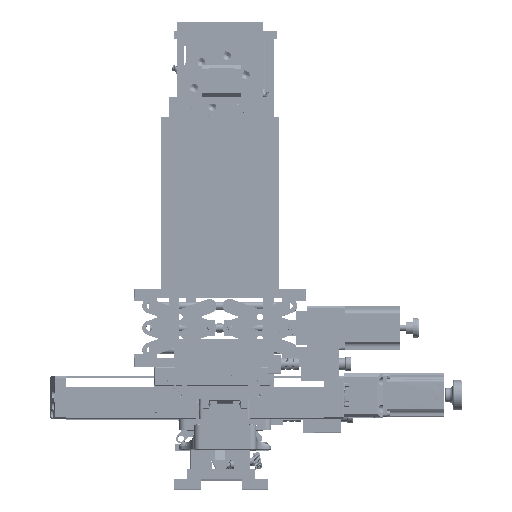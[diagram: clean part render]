
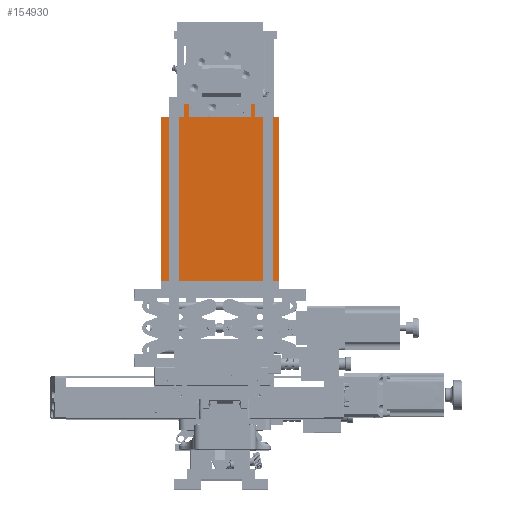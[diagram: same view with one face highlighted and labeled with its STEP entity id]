
A CAD part, top view. The second image highlights one B-rep face of the part: STEP entity #154930.
In plain terms, the highlighted planar face has unit normal (0, 0, 1) as drawn and (0, 0, -1) by its records, which use the part's own axes.
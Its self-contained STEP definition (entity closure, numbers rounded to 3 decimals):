
#6925 = VERTEX_POINT ( 'NONE', #85030 ) ;
#8057 = PLANE ( 'NONE',  #137661 ) ;
#9685 = EDGE_CURVE ( 'NONE', #239781, #52835, #263859, .T. ) ;
#12762 = VECTOR ( 'NONE', #225861, 1000. ) ;
#14666 = EDGE_CURVE ( 'NONE', #289419, #155166, #55659, .T. ) ;
#16921 = LINE ( 'NONE', #346121, #74727 ) ;
#18175 = CARTESIAN_POINT ( 'NONE',  ( 45.299, 57.216, 0. ) ) ;
#18228 = EDGE_CURVE ( 'NONE', #52835, #6925, #122760, .T. ) ;
#19686 = CARTESIAN_POINT ( 'NONE',  ( -75., -175., 0. ) ) ;
#19709 = ORIENTED_EDGE ( 'NONE', *, *, #160680, .T. ) ;
#28686 = DIRECTION ( 'NONE',  ( 0., 1., 0. ) ) ;
#31862 = LINE ( 'NONE', #37145, #319329 ) ;
#31941 = ORIENTED_EDGE ( 'NONE', *, *, #194559, .T. ) ;
#35119 = LINE ( 'NONE', #146648, #171051 ) ;
#35781 = EDGE_CURVE ( 'NONE', #239781, #67699, #31862, .T. ) ;
#36488 = DIRECTION ( 'NONE',  ( 1., 0., 0. ) ) ;
#37145 = CARTESIAN_POINT ( 'NONE',  ( 45.299, 57.216, 0. ) ) ;
#39256 = ORIENTED_EDGE ( 'NONE', *, *, #206662, .F. ) ;
#46265 = VERTEX_POINT ( 'NONE', #260922 ) ;
#48978 = CARTESIAN_POINT ( 'NONE',  ( -40., 34., 0. ) ) ;
#50159 = CARTESIAN_POINT ( 'NONE',  ( -75., 34., 0. ) ) ;
#52835 = VERTEX_POINT ( 'NONE', #83734 ) ;
#53458 = VERTEX_POINT ( 'NONE', #143947 ) ;
#55659 = LINE ( 'NONE', #273383, #87122 ) ;
#67699 = VERTEX_POINT ( 'NONE', #338527 ) ;
#67812 = EDGE_CURVE ( 'NONE', #155166, #135086, #288091, .T. ) ;
#69608 = DIRECTION ( 'NONE',  ( 0., -1., 0. ) ) ;
#74727 = VECTOR ( 'NONE', #151926, 1000. ) ;
#83734 = CARTESIAN_POINT ( 'NONE',  ( 45.299, 34., 0. ) ) ;
#85030 = CARTESIAN_POINT ( 'NONE',  ( 75., 34., 0. ) ) ;
#86953 = CARTESIAN_POINT ( 'NONE',  ( 75., 175., 0. ) ) ;
#87122 = VECTOR ( 'NONE', #28686, 1000. ) ;
#90829 = DIRECTION ( 'NONE',  ( 0., 0., 1. ) ) ;
#92210 = LINE ( 'NONE', #146201, #134135 ) ;
#94330 = ORIENTED_EDGE ( 'NONE', *, *, #145961, .F. ) ;
#101833 = CARTESIAN_POINT ( 'NONE',  ( 45.299, 57.216, 0. ) ) ;
#111856 = ORIENTED_EDGE ( 'NONE', *, *, #14666, .F. ) ;
#112342 = ORIENTED_EDGE ( 'NONE', *, *, #67812, .F. ) ;
#113420 = VERTEX_POINT ( 'NONE', #50159 ) ;
#113488 = ORIENTED_EDGE ( 'NONE', *, *, #144352, .F. ) ;
#122760 = LINE ( 'NONE', #232543, #324476 ) ;
#134135 = VECTOR ( 'NONE', #255939, 1000. ) ;
#135086 = VERTEX_POINT ( 'NONE', #288457 ) ;
#137661 = AXIS2_PLACEMENT_3D ( 'NONE', #173563, #90829, #313784 ) ;
#143947 = CARTESIAN_POINT ( 'NONE',  ( -75., -175., 0. ) ) ;
#144352 = EDGE_CURVE ( 'NONE', #224375, #6925, #336903, .T. ) ;
#145961 = EDGE_CURVE ( 'NONE', #113420, #53458, #190500, .T. ) ;
#146201 = CARTESIAN_POINT ( 'NONE',  ( -45.299, 34., 0. ) ) ;
#146648 = CARTESIAN_POINT ( 'NONE',  ( 40., 121.616, 0. ) ) ;
#151926 = DIRECTION ( 'NONE',  ( 1., 0., 0. ) ) ;
#154930 = ADVANCED_FACE ( 'NONE', ( #231072 ), #8057, .F. ) ;
#155166 = VERTEX_POINT ( 'NONE', #191292 ) ;
#159965 = DIRECTION ( 'NONE',  ( 0., -1., 0. ) ) ;
#160680 = EDGE_CURVE ( 'NONE', #113420, #46265, #16921, .T. ) ;
#171051 = VECTOR ( 'NONE', #279849, 1000. ) ;
#173563 = CARTESIAN_POINT ( 'NONE',  ( 0., 0., 0. ) ) ;
#173896 = DIRECTION ( 'NONE',  ( -1., 0., 0. ) ) ;
#178957 = ORIENTED_EDGE ( 'NONE', *, *, #320849, .F. ) ;
#183695 = DIRECTION ( 'NONE',  ( -1., 0., 0. ) ) ;
#183788 = ORIENTED_EDGE ( 'NONE', *, *, #354456, .F. ) ;
#190500 = LINE ( 'NONE', #300215, #192433 ) ;
#191292 = CARTESIAN_POINT ( 'NONE',  ( -40., 57.216, 0. ) ) ;
#191359 = CARTESIAN_POINT ( 'NONE',  ( 40., 34., 0. ) ) ;
#192433 = VECTOR ( 'NONE', #159965, 1000. ) ;
#194559 = EDGE_CURVE ( 'NONE', #46265, #135086, #92210, .T. ) ;
#201125 = VERTEX_POINT ( 'NONE', #191359 ) ;
#202503 = VECTOR ( 'NONE', #69608, 1000. ) ;
#206662 = EDGE_CURVE ( 'NONE', #53458, #224375, #294911, .T. ) ;
#224375 = VERTEX_POINT ( 'NONE', #355576 ) ;
#225861 = DIRECTION ( 'NONE',  ( -1., 0., 0. ) ) ;
#228921 = VECTOR ( 'NONE', #183695, 1000. ) ;
#231072 = FACE_OUTER_BOUND ( 'NONE', #338180, .T. ) ;
#231130 = CARTESIAN_POINT ( 'NONE',  ( 40., 34., 0. ) ) ;
#232543 = CARTESIAN_POINT ( 'NONE',  ( 45.299, 34., 0. ) ) ;
#239781 = VERTEX_POINT ( 'NONE', #101833 ) ;
#255939 = DIRECTION ( 'NONE',  ( 0., 1., 0. ) ) ;
#256079 = VECTOR ( 'NONE', #306410, 1000. ) ;
#259365 = ORIENTED_EDGE ( 'NONE', *, *, #18228, .T. ) ;
#260922 = CARTESIAN_POINT ( 'NONE',  ( -45.299, 34., 0. ) ) ;
#263859 = LINE ( 'NONE', #287344, #202503 ) ;
#273383 = CARTESIAN_POINT ( 'NONE',  ( -40., 121.616, 0. ) ) ;
#279849 = DIRECTION ( 'NONE',  ( 0., -1., 0. ) ) ;
#282985 = DIRECTION ( 'NONE',  ( 1., 0., 0. ) ) ;
#287344 = CARTESIAN_POINT ( 'NONE',  ( 45.299, 34., 0. ) ) ;
#288091 = LINE ( 'NONE', #18175, #228921 ) ;
#288457 = CARTESIAN_POINT ( 'NONE',  ( -45.299, 57.216, 0. ) ) ;
#289419 = VERTEX_POINT ( 'NONE', #48978 ) ;
#294911 = LINE ( 'NONE', #19686, #314254 ) ;
#300215 = CARTESIAN_POINT ( 'NONE',  ( -75., 175., 0. ) ) ;
#306410 = DIRECTION ( 'NONE',  ( 0., 1., 0. ) ) ;
#313784 = DIRECTION ( 'NONE',  ( 1., 0., 0. ) ) ;
#314254 = VECTOR ( 'NONE', #282985, 1000. ) ;
#315597 = LINE ( 'NONE', #231130, #12762 ) ;
#319329 = VECTOR ( 'NONE', #173896, 1000. ) ;
#320849 = EDGE_CURVE ( 'NONE', #201125, #289419, #315597, .T. ) ;
#324386 = ORIENTED_EDGE ( 'NONE', *, *, #9685, .T. ) ;
#324476 = VECTOR ( 'NONE', #36488, 1000. ) ;
#336903 = LINE ( 'NONE', #86953, #256079 ) ;
#338180 = EDGE_LOOP ( 'NONE', ( #112342, #111856, #178957, #183788, #347637, #324386, #259365, #113488, #39256, #94330, #19709, #31941 ) ) ;
#338527 = CARTESIAN_POINT ( 'NONE',  ( 40., 57.216, 0. ) ) ;
#346121 = CARTESIAN_POINT ( 'NONE',  ( -45.299, 34., 0. ) ) ;
#347637 = ORIENTED_EDGE ( 'NONE', *, *, #35781, .F. ) ;
#354456 = EDGE_CURVE ( 'NONE', #67699, #201125, #35119, .T. ) ;
#355576 = CARTESIAN_POINT ( 'NONE',  ( 75., -175., 0. ) ) ;
